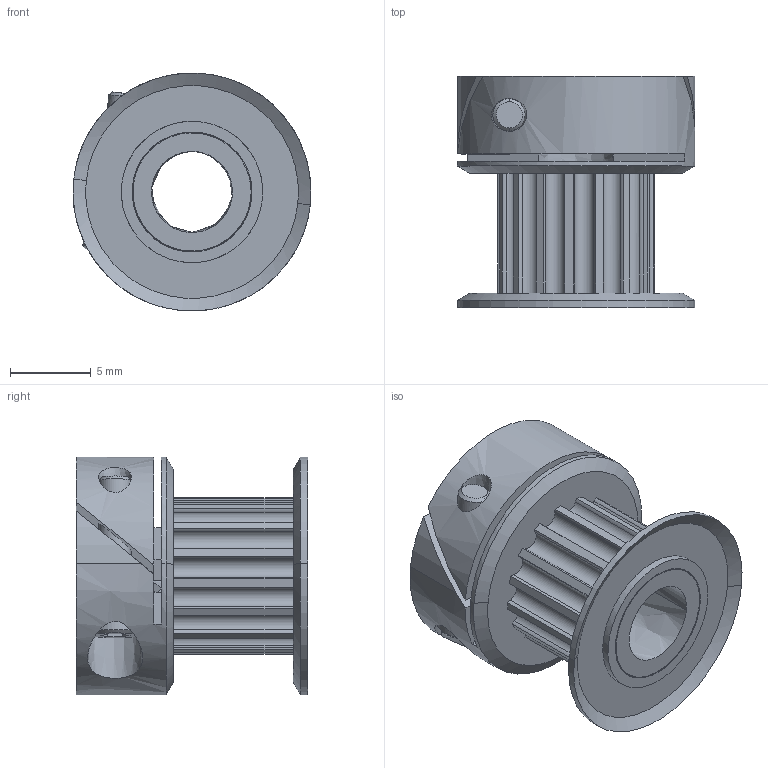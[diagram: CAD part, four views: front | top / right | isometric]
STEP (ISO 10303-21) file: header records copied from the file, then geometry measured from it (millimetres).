
FILE_DESCRIPTION(/* description */ (''),/* implementation_level */ '2;1');
FILE_NAME(/* name */ 'POLETA~1',/* time_stamp */ '2019-04-01T21:26:47-03:00',/* author */ (''),/* organization */ (''),/* preprocessor_version */ 'ST-DEVELOPER v16.5',/* originating_system */ '',/* authorisation */ '');
FILE_SCHEMA (('AUTOMOTIVE_DESIGN'));
Length unit declared in the file: millimetre
Products named in the file (1): Document
Bounding box: 14.7 x 14.3 x 14.7 mm (x, y, z)
Volume: 1209.7 mm3; surface area: 1770.2 mm2
Topology: 1 solids, 1 shells, 137 faces, 371 edges, 244 vertices
Faces by surface type: bspline 110, plane 27
Entity records: 5537 total; most frequent: CARTESIAN_POINT 3482, ORIENTED_EDGE 742, EDGE_CURVE 371, VERTEX_POINT 244, EDGE_LOOP 151, B_SPLINE_CURVE_WITH_KNOTS 147, ADVANCED_FACE 137, FACE_OUTER_BOUND 137
